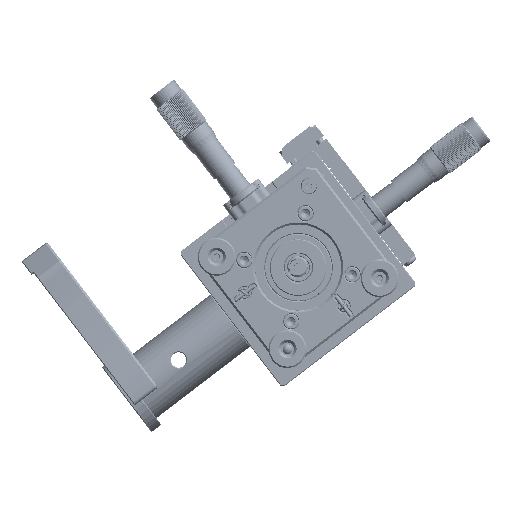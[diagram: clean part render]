
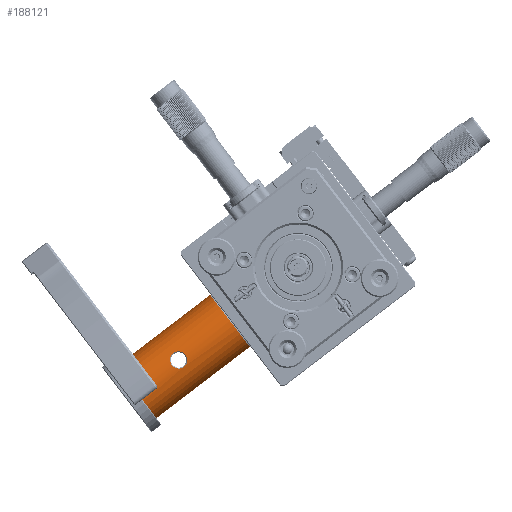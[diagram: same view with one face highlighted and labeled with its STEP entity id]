
A CAD part, top view. The second image highlights one B-rep face of the part: STEP entity #188121.
In plain terms, the highlighted cylindrical face has radius 12.7 mm (diameter 25.4 mm), a partial arc.
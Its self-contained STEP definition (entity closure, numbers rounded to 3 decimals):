
#184210=CARTESIAN_POINT('',(0.,4.8,0.));
#184211=DIRECTION('',(0.,1.,0.));
#184212=DIRECTION('',(-1.,0.,0.));
#184213=AXIS2_PLACEMENT_3D('',#184210,#184211,#184212);
#184229=DIRECTION('',(0.,1.,0.));
#184230=VECTOR('',#184229,45.7);
#184231=CARTESIAN_POINT('',(12.7,4.8,0.));
#184232=LINE('',#184231,#184230);
#184319=CARTESIAN_POINT('',(0.,50.5,0.));
#184320=DIRECTION('',(0.,-1.,0.));
#184321=DIRECTION('',(1.,0.,0.));
#184322=AXIS2_PLACEMENT_3D('',#184319,#184320,#184321);
#184324=CARTESIAN_POINT('',(0.,50.5,0.));
#184325=DIRECTION('',(0.,-1.,0.));
#184326=DIRECTION('',(0.,0.,1.));
#184327=AXIS2_PLACEMENT_3D('',#184324,#184325,#184326);
#184329=DIRECTION('',(0.,1.,0.));
#184330=VECTOR('',#184329,45.7);
#184331=CARTESIAN_POINT('',(-12.7,4.8,0.));
#184332=LINE('',#184331,#184330);
#184333=CARTESIAN_POINT('',(3.38,25.4,
12.242));
#184334=CARTESIAN_POINT('',(3.381,25.609,
12.242));
#184335=CARTESIAN_POINT('',(3.34,26.031,
12.253));
#184336=CARTESIAN_POINT('',(3.138,26.695,
12.307));
#184337=CARTESIAN_POINT('',(2.774,27.329,
12.396));
#184338=CARTESIAN_POINT('',(2.318,27.833,
12.49));
#184339=CARTESIAN_POINT('',(1.745,28.255,
12.585));
#184340=CARTESIAN_POINT('',(1.092,28.549,
12.659));
#184341=CARTESIAN_POINT('',(0.39,28.703,
12.701));
#184342=CARTESIAN_POINT('',(-0.324,28.709,
12.703));
#184343=CARTESIAN_POINT('',(-1.022,28.571,
12.665));
#184344=CARTESIAN_POINT('',(-1.679,28.293,
12.594));
#184345=CARTESIAN_POINT('',(-2.275,27.873,
12.498));
#184346=CARTESIAN_POINT('',(-2.749,27.363,
12.401));
#184347=CARTESIAN_POINT('',(-3.133,26.712,
12.309));
#184348=CARTESIAN_POINT('',(-3.341,26.028,
12.253));
#184349=CARTESIAN_POINT('',(-3.381,25.607,
12.242));
#184350=CARTESIAN_POINT('',(-3.38,25.4,
12.242));
#184352=CARTESIAN_POINT('',(-3.38,25.4,
12.242));
#184353=CARTESIAN_POINT('',(-3.381,25.191,
12.242));
#184354=CARTESIAN_POINT('',(-3.34,24.769,
12.253));
#184355=CARTESIAN_POINT('',(-3.138,24.105,
12.307));
#184356=CARTESIAN_POINT('',(-2.774,23.471,
12.396));
#184357=CARTESIAN_POINT('',(-2.318,22.967,
12.49));
#184358=CARTESIAN_POINT('',(-1.745,22.545,
12.585));
#184359=CARTESIAN_POINT('',(-1.092,22.251,
12.659));
#184360=CARTESIAN_POINT('',(-0.39,22.097,
12.701));
#184361=CARTESIAN_POINT('',(0.324,22.091,
12.703));
#184362=CARTESIAN_POINT('',(1.022,22.229,
12.665));
#184363=CARTESIAN_POINT('',(1.679,22.507,
12.594));
#184364=CARTESIAN_POINT('',(2.275,22.927,
12.498));
#184365=CARTESIAN_POINT('',(2.749,23.437,
12.401));
#184366=CARTESIAN_POINT('',(3.133,24.088,
12.309));
#184367=CARTESIAN_POINT('',(3.341,24.772,
12.253));
#184368=CARTESIAN_POINT('',(3.381,25.193,
12.242));
#184369=CARTESIAN_POINT('',(3.38,25.4,
12.242));
#187628=CARTESIAN_POINT('',(12.7,4.8,0.));
#187629=CARTESIAN_POINT('',(-12.7,4.8,0.));
#187630=VERTEX_POINT('',#187628);
#187631=VERTEX_POINT('',#187629);
#187633=CARTESIAN_POINT('',(12.7,50.5,0.));
#187635=VERTEX_POINT('',#187633);
#187636=CARTESIAN_POINT('',(-12.7,50.5,0.));
#187637=VERTEX_POINT('',#187636);
#187652=CARTESIAN_POINT('',(0.,50.5,12.7));
#187653=VERTEX_POINT('',#187652);
#187654=VERTEX_POINT('',#184333);
#187655=VERTEX_POINT('',#184350);
#188103=CARTESIAN_POINT('',(0.,4.8,0.));
#188104=DIRECTION('',(0.,1.,0.));
#188105=DIRECTION('',(1.,0.,0.));
#188106=AXIS2_PLACEMENT_3D('',#188103,#188104,#188105);
#188107=CYLINDRICAL_SURFACE('',#188106,12.7);
#188108=ORIENTED_EDGE('',*,*,#188097,.F.);
#188109=ORIENTED_EDGE('',*,*,#188095,.F.);
#188110=ORIENTED_EDGE('',*,*,#188038,.F.);
#188111=ORIENTED_EDGE('',*,*,#188007,.F.);
#188112=ORIENTED_EDGE('',*,*,#188035,.T.);
#188113=EDGE_LOOP('',(#188108,#188109,#188110,#188111,#188112));
#188114=FACE_OUTER_BOUND('',#188113,.F.);
#188116=ORIENTED_EDGE('',*,*,#188115,.T.);
#188118=ORIENTED_EDGE('',*,*,#188117,.T.);
#188119=EDGE_LOOP('',(#188116,#188118));
#188120=FACE_BOUND('',#188119,.F.);
#188121=ADVANCED_FACE('',(#188114,#188120),#188107,.T.);
#184214=CIRCLE('',#184213,12.7);
#184323=CIRCLE('',#184322,12.7);
#184328=CIRCLE('',#184327,12.7);
#184351=B_SPLINE_CURVE_WITH_KNOTS('',3,(#184333,#184334,#184335,#184336,#184337,
#184338,#184339,#184340,#184341,#184342,#184343,#184344,#184345,#184346,#184347,
#184348,#184349,#184350),.UNSPECIFIED.,.F.,.F.,(4,1,1,1,1,1,1,1,1,1,1,1,1,1,1,
4),(0.,0.067,0.133,0.2,0.267,
0.333,0.4,0.467,0.533,0.6,
0.667,0.733,0.8,0.867,0.933,
1.),.UNSPECIFIED.);
#184370=B_SPLINE_CURVE_WITH_KNOTS('',3,(#184352,#184353,#184354,#184355,#184356,
#184357,#184358,#184359,#184360,#184361,#184362,#184363,#184364,#184365,#184366,
#184367,#184368,#184369),.UNSPECIFIED.,.F.,.F.,(4,1,1,1,1,1,1,1,1,1,1,1,1,1,1,
4),(0.,0.067,0.133,0.2,0.267,
0.333,0.4,0.467,0.533,0.6,
0.667,0.733,0.8,0.867,0.933,
1.),.UNSPECIFIED.);
#188007=EDGE_CURVE('',#187631,#187630,#184214,.T.);
#188035=EDGE_CURVE('',#187631,#187637,#184332,.T.);
#188038=EDGE_CURVE('',#187630,#187635,#184232,.T.);
#188095=EDGE_CURVE('',#187635,#187653,#184323,.T.);
#188097=EDGE_CURVE('',#187653,#187637,#184328,.T.);
#188115=EDGE_CURVE('',#187654,#187655,#184351,.T.);
#188117=EDGE_CURVE('',#187655,#187654,#184370,.T.);
